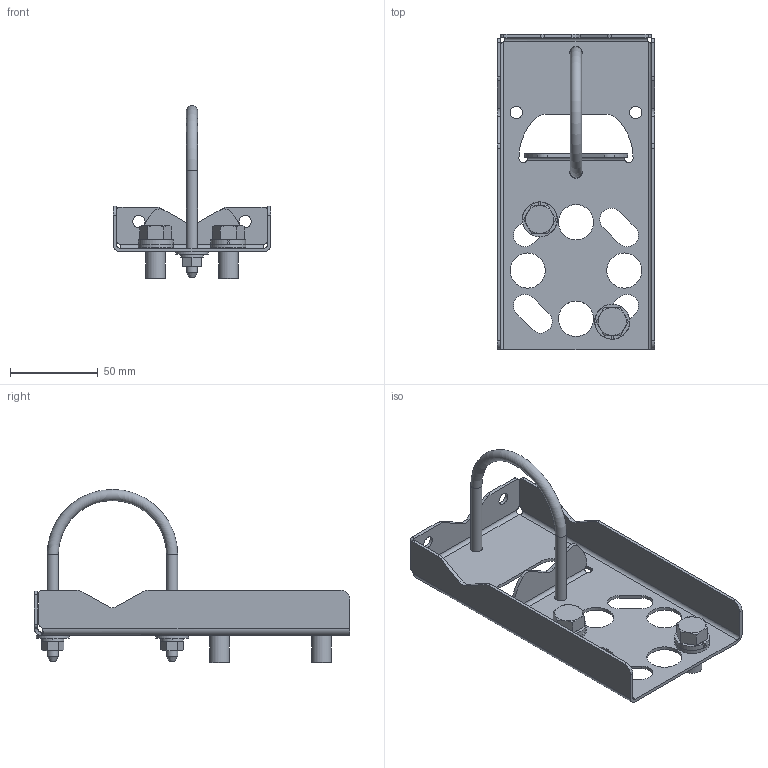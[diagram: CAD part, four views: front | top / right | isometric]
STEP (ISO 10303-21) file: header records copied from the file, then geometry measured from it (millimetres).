
FILE_DESCRIPTION(/* description */ (''),/* implementation_level */ '2;1');
FILE_NAME(/* name */ 'F:\Area\Desenvolvimento_2\Projects\Sensor\projetos\LD30X\montagens 3d - clientes\pre-montagens\suporte plano e acessorios parafusos fx5.stp',/* time_stamp */ '2023-01-31T16:27:52-03:00',/* author */ ('inventor02'),/* organization */ (''),/* preprocessor_version */ 'ST-DEVELOPER v17',/* originating_system */ 'Autodesk Inventor 2019',/* authorisation */ '');
FILE_SCHEMA (('CONFIG_CONTROL_DESIGN'));
Products named in the file (9): suporte plano e acessorios parafusos fx5; suporte plano; 101-B-0826-03; DIN 127 - A 7; ANSI/ASME B18.2.1 - 7/16-20 UNF - 0,875; Porca 1-4 x 20 UNC; ASME B18.21.1 - 7/16; ANSI B18.22.1 - 1/4 - wide - Type A; DIN 433 - 13
Assembly tree (14 placements, depth 2):
  suporte plano e acessorios parafusos fx5
    suporte plano
    101-B-0826-03
    DIN 127 - A 7  x2
    ANSI/ASME B18.2.1 - 7/16-20 UNF - 0,875  x2
    Porca 1-4 x 20 UNC  x2
    ASME B18.21.1 - 7/16  x2
    ANSI B18.22.1 - 1/4 - wide - Type A  x2
    DIN 433 - 13  x2
Bounding box: 89.8 x 179.4 x 98.63 mm (x, y, z)
Volume: 61108 mm3; surface area: 60483.8 mm2
Topology: 14 solids, 14 shells, 237 faces, 573 edges, 366 vertices
Faces by surface type: plane 110, cylinder 92, cone 26, bspline 6, torus 3
Full cylindrical faces by diameter (mm): 4.978 x2, 6.35 x2, 7 x6, 7.925 x2, 11.112 x2, 13 x2, 15.875 x2, 18.644 x2, 20 x6
Entity records: 5958 total; most frequent: CARTESIAN_POINT 1246, DIRECTION 975, ORIENTED_EDGE 882, EDGE_CURVE 441, AXIS2_PLACEMENT_3D 377, VERTEX_POINT 282, LINE 221, VECTOR 221
